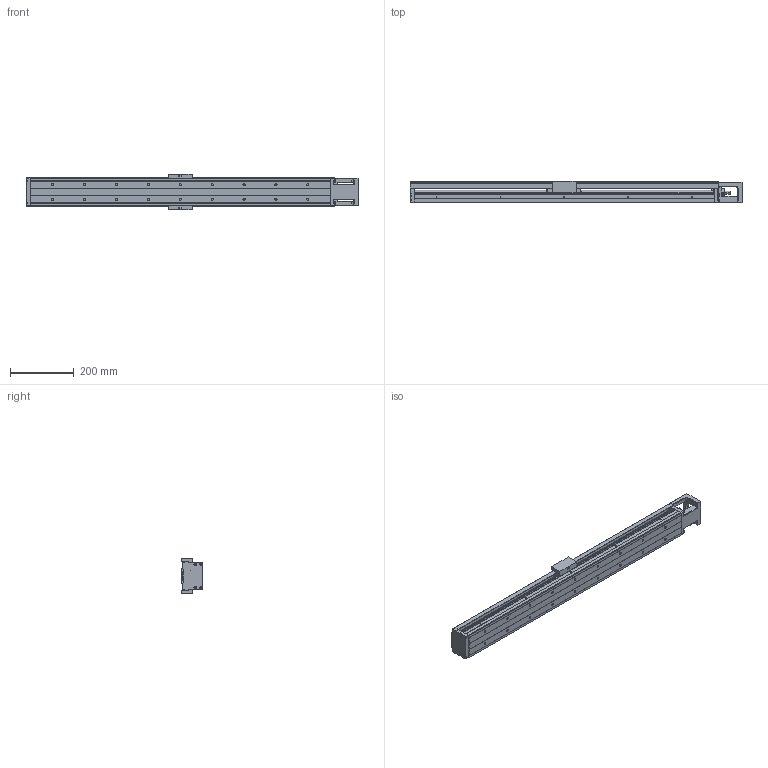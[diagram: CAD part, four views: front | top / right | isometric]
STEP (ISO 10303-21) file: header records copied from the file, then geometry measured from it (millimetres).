
FILE_DESCRIPTION (( 'STEP AP203' ), '1' );
FILE_NAME ('HKK86D20C-940A1-F0C.stp', '2021-11-26T08:32:50', ( '' ), ( '' ), 'SwSTEP 2.0', 'SolidWorks 2018', '' );
FILE_SCHEMA (( 'CONFIG_CONTROL_DESIGN' ));
Length unit declared in the file: millimetre
Products named in the file (1): HKK86D20C-940A1-F0C
Bounding box: 1040 x 68 x 112 mm (x, y, z)
Volume: 2367194.2 mm3; surface area: 639228.8 mm2
Topology: 2 solids, 11 shells, 875 faces, 2317 edges, 1466 vertices
Faces by surface type: plane 451, cylinder 317, cone 82, sphere 9, bspline 8, torus 8
Entity records: 27637 total; most frequent: CARTESIAN_POINT 5787, DIRECTION 4555, ORIENTED_EDGE 4494, EDGE_CURVE 2247, AXIS2_PLACEMENT_3D 1545, VECTOR 1465, LINE 1465, VERTEX_POINT 1462
